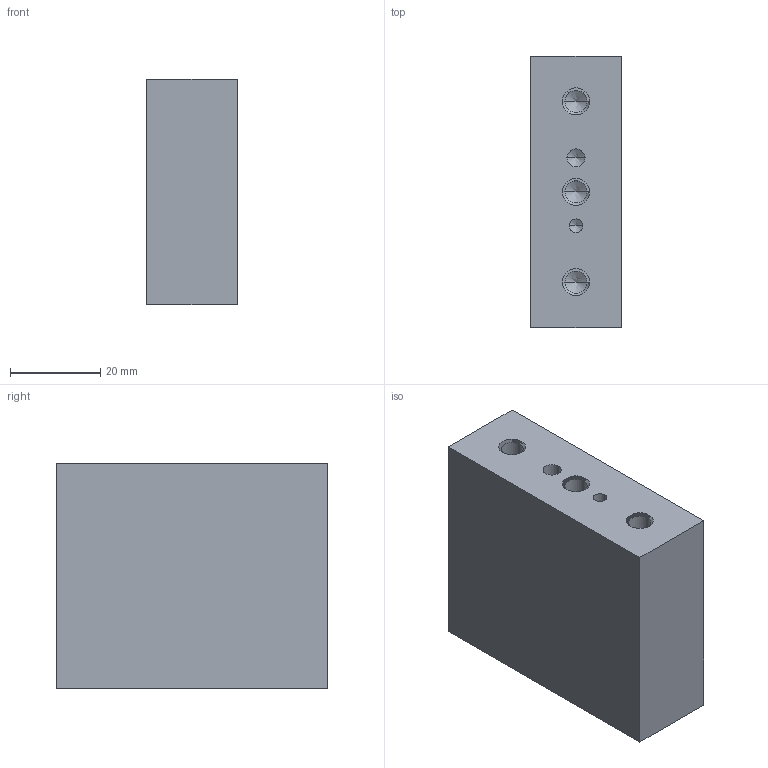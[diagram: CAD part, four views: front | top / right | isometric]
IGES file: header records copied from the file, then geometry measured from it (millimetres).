
Start section: 3D InterOp IGES (v. 2018 1.0.2), Spatial Corp. Copyright (c) 1999-2017.
Global section: file name: V92561-20-60-50.igs; native system: Spatial Corp.; preprocessor: 3D InterOp GENERIC/IGES 3.0; author: Noname; organization: Noname; date: 20191004.071500; units: metre
Bounding box: 20 x 60 x 50 mm (x, y, z)
Surface area: 11261.9 mm2 (no closed solid volume)
Topology: 0 solids, 0 shells, 41 faces, 174 edges, 164 vertices
Faces by surface type: revolution 32, extrusion 9
